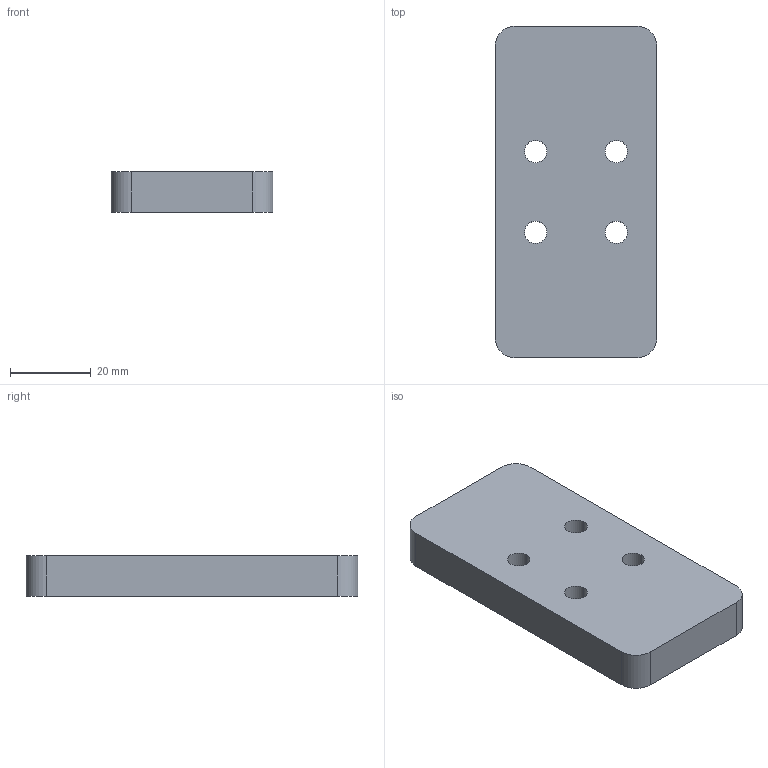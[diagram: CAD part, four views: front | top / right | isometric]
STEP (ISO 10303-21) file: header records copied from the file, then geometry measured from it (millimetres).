
FILE_DESCRIPTION (( 'STEP AP214' ), '1' );
FILE_NAME ('GZ28.08_V1µ××ù-V02.STEP', '2021-04-11T16:26:51', ( 'hp' ), ( '' ), 'SwSTEP 2.0', 'SolidWorks 2017', '' );
FILE_SCHEMA (( 'AUTOMOTIVE_DESIGN' ));
Length unit declared in the file: millimetre
Products named in the file (1): GZ28.08_V1菁釱-V02
Bounding box: 40 x 82 x 10 mm (x, y, z)
Volume: 31635.1 mm3; surface area: 9372.3 mm2
Topology: 1 solids, 1 shells, 18 faces, 48 edges, 32 vertices
Faces by surface type: cylinder 12, plane 6
Entity records: 626 total; most frequent: DIRECTION 110, CARTESIAN_POINT 99, ORIENTED_EDGE 96, EDGE_CURVE 48, AXIS2_PLACEMENT_3D 43, VERTEX_POINT 32, EDGE_LOOP 26, CIRCLE 24
